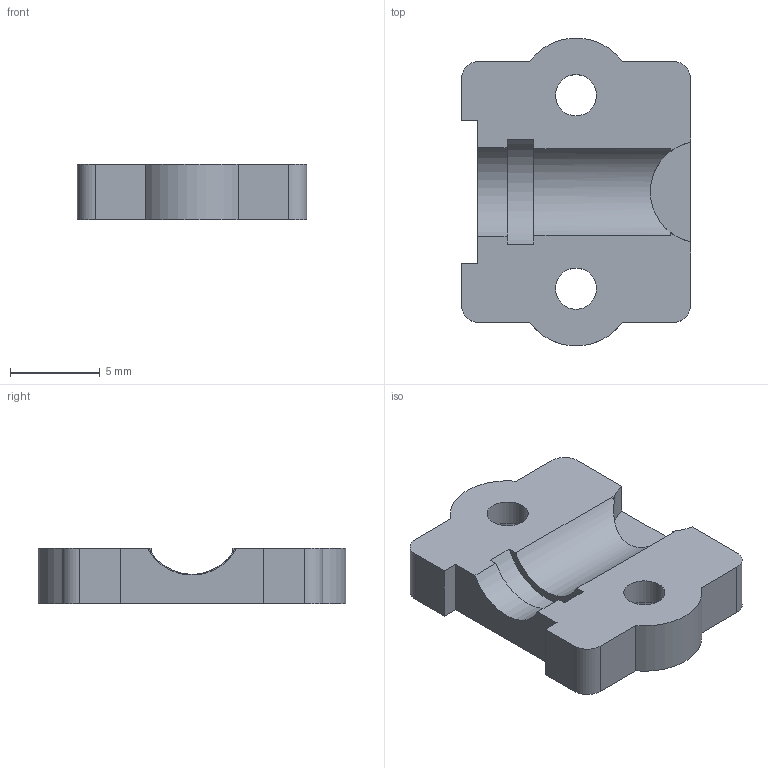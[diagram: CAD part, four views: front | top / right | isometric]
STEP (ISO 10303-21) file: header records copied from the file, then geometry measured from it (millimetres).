
FILE_DESCRIPTION(/* description */ (''),/* implementation_level */ '2;1');
FILE_NAME(/* name */ 'P14.step',/* time_stamp */ '2026-09-14T15:05:30-07:00',/* author */ (''),/* organization */ (''),/* preprocessor_version */ 'ST-DEVELOPER v20.1',/* originating_system */ 'Autodesk Translation Framework v15.8.0.0',/* authorisation */ '');
FILE_SCHEMA (('AUTOMOTIVE_DESIGN { 1 0 10303 214 3 1 1 }'));
Length unit declared in the file: millimetre
Products named in the file (1): 2026-09-14-15-05-30-810
Bounding box: 12.8 x 17.18 x 3.1 mm (x, y, z)
Volume: 467.9 mm3; surface area: 594.1 mm2
Topology: 1 solids, 1 shells, 34 faces, 92 edges, 60 vertices
Faces by surface type: plane 18, cylinder 14, cone 2
Full cylindrical faces by diameter (mm): 2.3 x2, 3.92 x2
Entity records: 1130 total; most frequent: CARTESIAN_POINT 204, DIRECTION 191, ORIENTED_EDGE 184, EDGE_CURVE 92, AXIS2_PLACEMENT_3D 65, LINE 61, VECTOR 61, VERTEX_POINT 60
